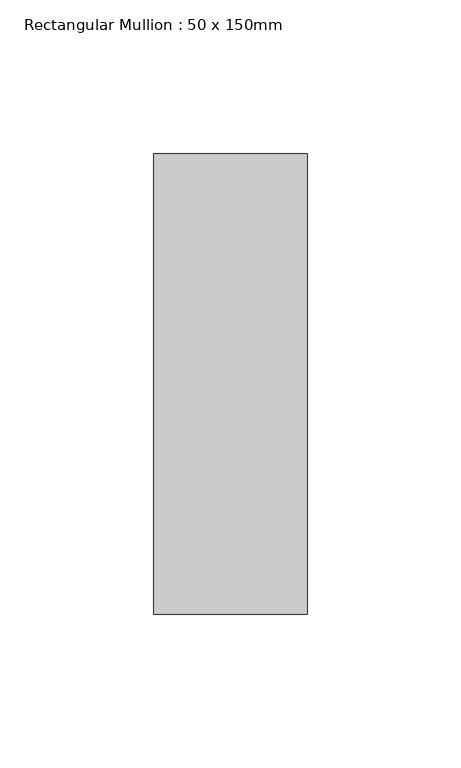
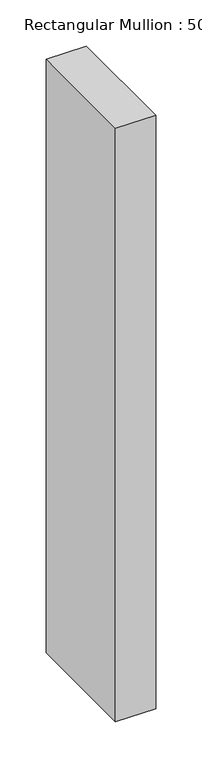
"""IFC4 building model written with IfcOpenShell, lengths in millimetres: member geometry, Rectangular Mullion : 50 x 150mm."""

from ifc_helpers import new_model, si_unit, frame, origin, place, context, project, spatial, polyline, outline, extrude, source, transform, mapped, element, save


def rectangular_mullion_50_x_150mm_14b52876(model_context):
    return source(origin(), model_context, "Body", "SweptSolid", [
        extrude(outline(polyline([(0.0, 75.0), (0.0, -75.0), (-50.0, -75.0), (-50.0, 75.0), (0.0, 75.0)])), frame((0.0, 0.0, -784.1666669), z_axis=(0.0, 0.0, 1.0), x_axis=(1.0, 0.0, 0.0)), (0.0, 0.0, 1.0), 784.1666669),
    ])


if __name__ == "__main__":
    model = new_model("IFC4")
    model_context = context("Model", 3, world=origin())
    ifc_project = project(units=[si_unit("LENGTHUNIT", "METRE", prefix="MILLI")], contexts=[model_context])
    site = spatial("IfcSite", under=ifc_project)
    building = spatial("IfcBuilding", under=site)
    placement = place(None, origin())
    rectangular_mullion_50_x_150mm_shape = rectangular_mullion_50_x_150mm_14b52876(model_context)
    element("IfcMember", 1, ObjectType="Rectangular Mullion : 50 x 150mm", at=placement, inside=building, context=model_context, shape_type="MappedRepresentation", body=[
        mapped(rectangular_mullion_50_x_150mm_shape, transform((0.0, 0.0, 0.0), x_axis=(1.0, 0.0, 0.0), y_axis=(0.0, 1.0, 0.0), z_axis=(0.0, 0.0, 1.0))),
    ])
    save(model, "model.ifc")
